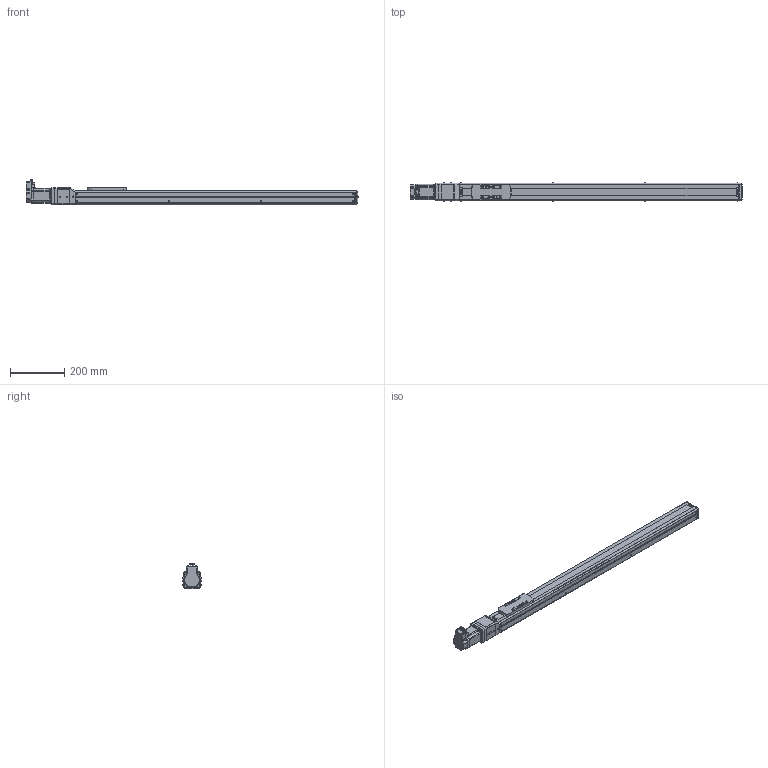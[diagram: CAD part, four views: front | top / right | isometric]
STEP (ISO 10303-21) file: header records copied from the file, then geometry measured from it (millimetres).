
FILE_DESCRIPTION(('FreeCAD Model'),'2;1');
FILE_NAME('Open CASCADE Shape Model','2023-08-02T11:03:47',('Author'),( ''),'Open CASCADE STEP processor 7.5','FreeCAD','Unknown');
FILE_SCHEMA(('AUTOMOTIVE_DESIGN { 1 0 10303 214 1 1 1 1 }'));
Length unit declared in the file: millimetre
Products named in the file (19): RSA1211; 1; 6; 5; 12; 2; 3; 9; 4; 11; 7; 13; 10; 8; Shapes; KSF6-20-0800-0-A0(0); KSF6---(Cover); KSF6-10-0800---(slider); KSF6-20-0800-A0 (0800A0No0)---(body)
Assembly tree (18 placements, depth 3):
  RSA1211
    1
    6
    5
    12
    2
    3
    9
    4
    11
    7
    13
    10
    8
    Shapes
    KSF6-20-0800-0-A0(0)
      KSF6---(Cover)
      KSF6-10-0800---(slider)
      KSF6-20-0800-A0 (0800A0No0)---(body)
Bounding box: 1223 x 66.4 x 93.17 mm (x, y, z)
Volume: 3815119.8 mm3; surface area: 406352.3 mm2
Topology: 17 solids, 17 shells, 1587 faces, 4238 edges, 2782 vertices
Faces by surface type: plane 1139, cylinder 310, cone 75, bspline 32, torus 27, revolution 4
Full cylindrical faces by diameter (mm): 2.113 x8, 2.6 x4, 3 x2, 3.242 x5, 4.134 x4, 4.5 x2, 5 x1, 5.5 x16, 6.5 x4, 9 x1, 9.5 x10, 12 x1, 15.5 x1, 17 x1, 44 x1, 50 x1
Entity records: 111792 total; most frequent: CARTESIAN_POINT 26340, DIRECTION 15891, LINE 10804, VECTOR 10804, ORIENTED_EDGE 8436, PCURVE 8436, DEFINITIONAL_REPRESENTATION 8436, EDGE_CURVE 4218
